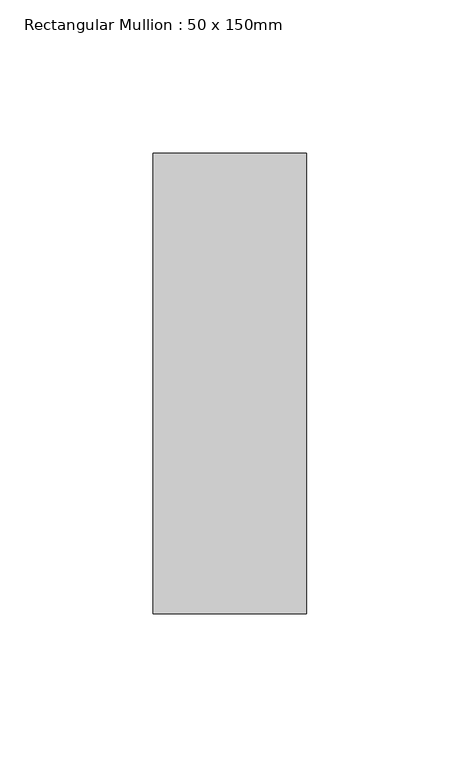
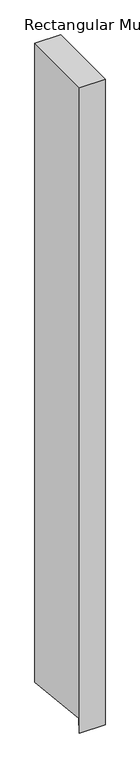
"""IFC4 building model written with IfcOpenShell, lengths in millimetres: member geometry, Rectangular Mullion : 50 x 150mm."""

from ifc_helpers import new_model, si_unit, frame, origin, place, context, project, spatial, polyline, outline, extrude, source, transform, mapped, element, save


def rectangular_mullion_50_x_150mm_8a6e4913(model_context):
    return source(origin(), model_context, "Body", "SweptSolid", [
        extrude(outline(polyline([(-75.0, 0.0), (75.0, 0.0), (75.0, -1315.0232147), (-72.0149057, -1299.7486848), (-75.0, -1328.4797391), (-75.0, 0.0)])), frame((-50.0, 0.0, 0.0), z_axis=(1.0, 0.0, 0.0), x_axis=(0.0, 1.0, 0.0)), (0.0, 0.0, 1.0), 50.0),
    ])


if __name__ == "__main__":
    model = new_model("IFC4")
    model_context = context("Model", 3, world=origin())
    ifc_project = project(units=[si_unit("LENGTHUNIT", "METRE", prefix="MILLI")], contexts=[model_context])
    site = spatial("IfcSite", under=ifc_project)
    building = spatial("IfcBuilding", under=site)
    placement = place(None, origin())
    rectangular_mullion_50_x_150mm_shape = rectangular_mullion_50_x_150mm_8a6e4913(model_context)
    element("IfcMember", 1, ObjectType="Rectangular Mullion : 50 x 150mm", at=placement, inside=building, context=model_context, shape_type="MappedRepresentation", body=[
        mapped(rectangular_mullion_50_x_150mm_shape, transform((0.0, 0.0, 0.0), x_axis=(1.0, 0.0, 0.0), y_axis=(0.0, 1.0, 0.0), z_axis=(0.0, 0.0, 1.0))),
    ])
    save(model, "model.ifc")
